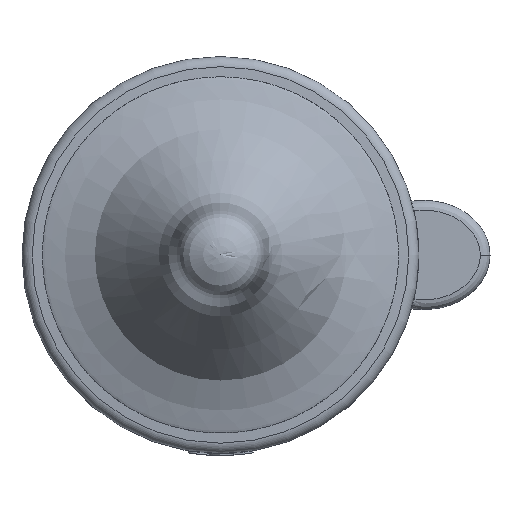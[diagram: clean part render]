
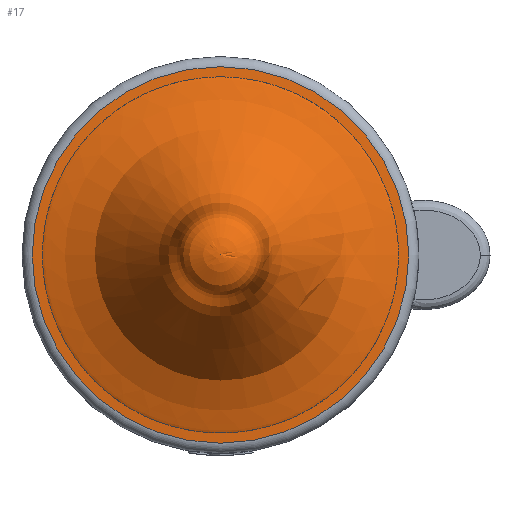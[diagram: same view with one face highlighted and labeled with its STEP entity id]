
A CAD part, top view. The second image highlights one B-rep face of the part: STEP entity #17.
In plain terms, the highlighted face is a revolution surface.
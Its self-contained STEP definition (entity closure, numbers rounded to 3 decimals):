
#17 = ADVANCED_FACE('',(#18),#48,.F.);
#18 = FACE_BOUND('',#19,.F.);
#19 = EDGE_LOOP('',(#20,#85,#112));
#20 = ORIENTED_EDGE('',*,*,#21,.T.);
#21 = EDGE_CURVE('',#22,#24,#26,.T.);
#22 = VERTEX_POINT('',#23);
#23 = CARTESIAN_POINT('',(0.,0.,31.));
#24 = VERTEX_POINT('',#25);
#25 = CARTESIAN_POINT('',(24.1,0.,4.1));
#26 = SEAM_CURVE('',#27,(#47,#78),.PCURVE_S1.);
#27 = B_SPLINE_CURVE_WITH_KNOTS('',3,(#28,#29,#30,#31,#32,#33,#34,#35,
    #36,#37,#38,#39,#40,#41,#42,#43,#44,#45,#46),.UNSPECIFIED.,.F.,.F.,(
    4,1,1,1,1,1,1,1,1,1,3,3,4),(0.,2.489,4.964,
    7.904,11.367,15.569,20.759,
    27.77,33.292,37.745,37.948,
    38.875,39.348),.UNSPECIFIED.);
#28 = CARTESIAN_POINT('',(0.,0.,31.));
#29 = CARTESIAN_POINT('',(0.876,0.,31.));
#30 = CARTESIAN_POINT('',(2.43,0.,30.671));
#31 = CARTESIAN_POINT('',(5.,0.,29.451));
#32 = CARTESIAN_POINT('',(5.776,0.,26.331));
#33 = CARTESIAN_POINT('',(5.836,0.,22.881));
#34 = CARTESIAN_POINT('',(6.632,0.,18.522));
#35 = CARTESIAN_POINT('',(9.996,0.,14.208));
#36 = CARTESIAN_POINT('',(14.013,0.,9.249));
#37 = CARTESIAN_POINT('',(16.258,0.,5.741));
#38 = CARTESIAN_POINT('',(23.932,0.,4.171));
#39 = CARTESIAN_POINT('',(22.374,0.,4.201));
#40 = CARTESIAN_POINT('',(22.306,0.,4.203));
#41 = CARTESIAN_POINT('',(22.306,0.,4.203));
#42 = CARTESIAN_POINT('',(22.306,0.,4.203));
#43 = CARTESIAN_POINT('',(22.306,0.,4.203));
#44 = CARTESIAN_POINT('',(22.622,0.,4.187));
#45 = CARTESIAN_POINT('',(23.179,0.,4.155));
#46 = CARTESIAN_POINT('',(24.1,0.,4.1));
#47 = PCURVE('',#48,#72);
#48 = SURFACE_OF_REVOLUTION('',#49,#69);
#49 = B_SPLINE_CURVE_WITH_KNOTS('',3,(#50,#51,#52,#53,#54,#55,#56,#57,
    #58,#59,#60,#61,#62,#63,#64,#65,#66,#67,#68),.UNSPECIFIED.,.F.,.F.,(
    4,1,1,1,1,1,1,1,1,1,3,3,4),(0.,2.489,4.964,
    7.904,11.367,15.569,20.759,
    27.77,33.292,37.745,37.948,
    38.875,39.348),.UNSPECIFIED.);
#50 = CARTESIAN_POINT('',(0.,0.,31.));
#51 = CARTESIAN_POINT('',(0.876,0.,31.));
#52 = CARTESIAN_POINT('',(2.43,0.,30.671));
#53 = CARTESIAN_POINT('',(5.,0.,29.451));
#54 = CARTESIAN_POINT('',(5.776,0.,26.331));
#55 = CARTESIAN_POINT('',(5.836,0.,22.881));
#56 = CARTESIAN_POINT('',(6.632,0.,18.522));
#57 = CARTESIAN_POINT('',(9.996,0.,14.208));
#58 = CARTESIAN_POINT('',(14.013,0.,9.249));
#59 = CARTESIAN_POINT('',(16.258,0.,5.741));
#60 = CARTESIAN_POINT('',(23.932,0.,4.171));
#61 = CARTESIAN_POINT('',(22.374,0.,4.201));
#62 = CARTESIAN_POINT('',(22.306,0.,4.203));
#63 = CARTESIAN_POINT('',(22.306,0.,4.203));
#64 = CARTESIAN_POINT('',(22.306,0.,4.203));
#65 = CARTESIAN_POINT('',(22.306,0.,4.203));
#66 = CARTESIAN_POINT('',(22.622,0.,4.187));
#67 = CARTESIAN_POINT('',(23.179,0.,4.155));
#68 = CARTESIAN_POINT('',(24.1,0.,4.1));
#69 = AXIS1_PLACEMENT('',#70,#71);
#70 = CARTESIAN_POINT('',(0.,0.,0.));
#71 = DIRECTION('',(0.,0.,1.));
#72 = DEFINITIONAL_REPRESENTATION('',(#73),#77);
#73 = LINE('',#74,#75);
#74 = CARTESIAN_POINT('',(0.,0.));
#75 = VECTOR('',#76,1.);
#76 = DIRECTION('',(0.,1.));
#77 = ( GEOMETRIC_REPRESENTATION_CONTEXT(2) 
PARAMETRIC_REPRESENTATION_CONTEXT() REPRESENTATION_CONTEXT('2D SPACE',''
  ) );
#78 = PCURVE('',#48,#79);
#79 = DEFINITIONAL_REPRESENTATION('',(#80),#84);
#80 = LINE('',#81,#82);
#81 = CARTESIAN_POINT('',(6.283,0.));
#82 = VECTOR('',#83,1.);
#83 = DIRECTION('',(0.,1.));
#84 = ( GEOMETRIC_REPRESENTATION_CONTEXT(2) 
PARAMETRIC_REPRESENTATION_CONTEXT() REPRESENTATION_CONTEXT('2D SPACE',''
  ) );
#85 = ORIENTED_EDGE('',*,*,#86,.F.);
#86 = EDGE_CURVE('',#24,#24,#87,.T.);
#87 = SURFACE_CURVE('',#88,(#93,#100),.PCURVE_S1.);
#88 = CIRCLE('',#89,24.1);
#89 = AXIS2_PLACEMENT_3D('',#90,#91,#92);
#90 = CARTESIAN_POINT('',(0.,0.,4.1));
#91 = DIRECTION('',(0.,0.,1.));
#92 = DIRECTION('',(1.,0.,-0.));
#93 = PCURVE('',#48,#94);
#94 = DEFINITIONAL_REPRESENTATION('',(#95),#99);
#95 = LINE('',#96,#97);
#96 = CARTESIAN_POINT('',(0.,39.348));
#97 = VECTOR('',#98,1.);
#98 = DIRECTION('',(1.,0.));
#99 = ( GEOMETRIC_REPRESENTATION_CONTEXT(2) 
PARAMETRIC_REPRESENTATION_CONTEXT() REPRESENTATION_CONTEXT('2D SPACE',''
  ) );
#100 = PCURVE('',#101,#106);
#101 = TOROIDAL_SURFACE('',#102,24.007,1.401);
#102 = AXIS2_PLACEMENT_3D('',#103,#104,#105);
#103 = CARTESIAN_POINT('',(0.,0.,2.702));
#104 = DIRECTION('',(-0.,-0.,-1.));
#105 = DIRECTION('',(1.,0.,-0.));
#106 = DEFINITIONAL_REPRESENTATION('',(#107),#111);
#107 = LINE('',#108,#109);
#108 = CARTESIAN_POINT('',(-0.,4.779));
#109 = VECTOR('',#110,1.);
#110 = DIRECTION('',(-1.,0.));
#111 = ( GEOMETRIC_REPRESENTATION_CONTEXT(2) 
PARAMETRIC_REPRESENTATION_CONTEXT() REPRESENTATION_CONTEXT('2D SPACE',''
  ) );
#112 = ORIENTED_EDGE('',*,*,#21,.F.);
